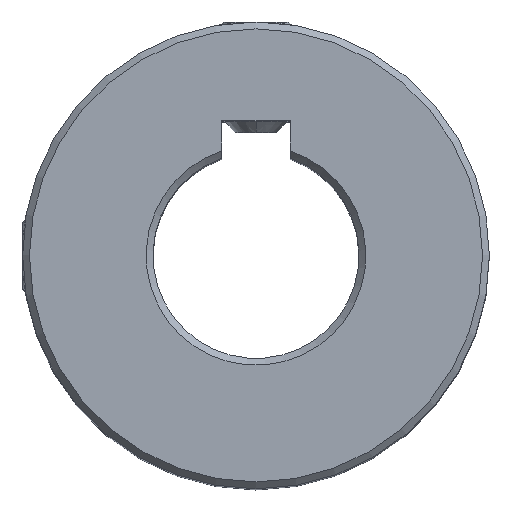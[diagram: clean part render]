
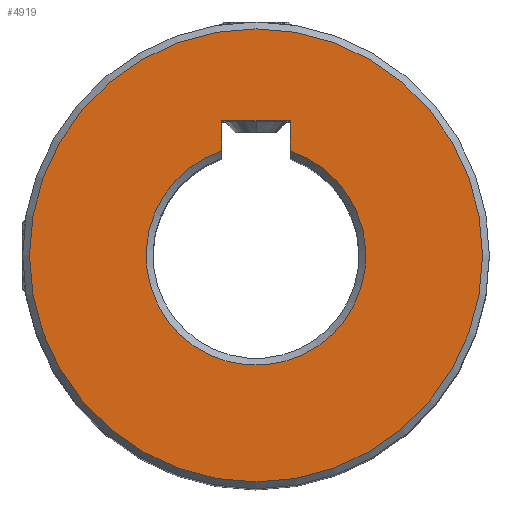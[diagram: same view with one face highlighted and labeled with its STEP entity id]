
A CAD part, top view. The second image highlights one B-rep face of the part: STEP entity #4919.
In plain terms, the highlighted planar face has unit normal (0, 0, 1).
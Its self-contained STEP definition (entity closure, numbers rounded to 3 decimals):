
#768 = EDGE_LOOP ( 'NONE', ( #2090 ) ) ;
#836 = DIRECTION ( 'NONE',  ( 0., 0., 1. ) ) ;
#922 = ORIENTED_EDGE ( 'NONE', *, *, #6007, .F. ) ;
#1170 = DIRECTION ( 'NONE',  ( 0., 0., 1. ) ) ;
#1305 = DIRECTION ( 'NONE',  ( 0., -1., 0. ) ) ;
#1676 = CARTESIAN_POINT ( 'NONE',  ( 2.5, 9.8, 25. ) ) ;
#1775 = CARTESIAN_POINT ( 'NONE',  ( 16.5, 0., 25. ) ) ;
#2090 = ORIENTED_EDGE ( 'NONE', *, *, #7635, .T. ) ;
#2097 = EDGE_CURVE ( 'NONE', #2279, #7202, #3000, .T. ) ;
#2194 = EDGE_CURVE ( 'NONE', #5344, #4697, #7480, .T. ) ;
#2279 = VERTEX_POINT ( 'NONE', #2527 ) ;
#2458 = AXIS2_PLACEMENT_3D ( 'NONE', #6575, #3450, #3409 ) ;
#2527 = CARTESIAN_POINT ( 'NONE',  ( 2.5, 7.599, 25. ) ) ;
#2768 = ORIENTED_EDGE ( 'NONE', *, *, #2097, .F. ) ;
#3000 = LINE ( 'NONE', #1676, #5359 ) ;
#3060 = CARTESIAN_POINT ( 'NONE',  ( 2.5, 9.8, 25. ) ) ;
#3069 = CARTESIAN_POINT ( 'NONE',  ( -2.5, 9.8, 25. ) ) ;
#3242 = VECTOR ( 'NONE', #1305, 1000. ) ;
#3409 = DIRECTION ( 'NONE',  ( 1., 0., 0. ) ) ;
#3446 = CARTESIAN_POINT ( 'NONE',  ( 0., 0., 25. ) ) ;
#3450 = DIRECTION ( 'NONE',  ( 0., 0., -1. ) ) ;
#3484 = AXIS2_PLACEMENT_3D ( 'NONE', #3446, #836, #4024 ) ;
#3489 = LINE ( 'NONE', #6004, #6668 ) ;
#3661 = VERTEX_POINT ( 'NONE', #1775 ) ;
#3671 = DIRECTION ( 'NONE',  ( 1., 0., 0. ) ) ;
#3936 = ORIENTED_EDGE ( 'NONE', *, *, #2194, .F. ) ;
#3943 = FACE_OUTER_BOUND ( 'NONE', #768, .T. ) ;
#4024 = DIRECTION ( 'NONE',  ( 1., 0., 0. ) ) ;
#4113 = AXIS2_PLACEMENT_3D ( 'NONE', #5531, #1170, #3671 ) ;
#4697 = VERTEX_POINT ( 'NONE', #5556 ) ;
#4919 = ADVANCED_FACE ( 'NONE', ( #5338, #3943 ), #5299, .T. ) ;
#5299 = PLANE ( 'NONE',  #3484 ) ;
#5338 = FACE_BOUND ( 'NONE', #6447, .T. ) ;
#5344 = VERTEX_POINT ( 'NONE', #5568 ) ;
#5359 = VECTOR ( 'NONE', #5539, 1000. ) ;
#5388 = DIRECTION ( 'NONE',  ( -1., 0., 0. ) ) ;
#5531 = CARTESIAN_POINT ( 'NONE',  ( 0., 0., 25. ) ) ;
#5539 = DIRECTION ( 'NONE',  ( 0., 1., 0. ) ) ;
#5548 = ORIENTED_EDGE ( 'NONE', *, *, #5911, .T. ) ;
#5556 = CARTESIAN_POINT ( 'NONE',  ( -2.5, 7.599, 25. ) ) ;
#5568 = CARTESIAN_POINT ( 'NONE',  ( -2.5, 9.8, 25. ) ) ;
#5911 = EDGE_CURVE ( 'NONE', #2279, #4697, #6798, .T. ) ;
#6004 = CARTESIAN_POINT ( 'NONE',  ( 2.5, 9.8, 25. ) ) ;
#6007 = EDGE_CURVE ( 'NONE', #7202, #5344, #3489, .T. ) ;
#6447 = EDGE_LOOP ( 'NONE', ( #2768, #5548, #3936, #922 ) ) ;
#6575 = CARTESIAN_POINT ( 'NONE',  ( 0., 0., 25. ) ) ;
#6668 = VECTOR ( 'NONE', #5388, 1000. ) ;
#6798 = CIRCLE ( 'NONE', #2458, 8. ) ;
#7202 = VERTEX_POINT ( 'NONE', #3060 ) ;
#7286 = CIRCLE ( 'NONE', #4113, 16.5 ) ;
#7480 = LINE ( 'NONE', #3069, #3242 ) ;
#7635 = EDGE_CURVE ( 'NONE', #3661, #3661, #7286, .T. ) ;
